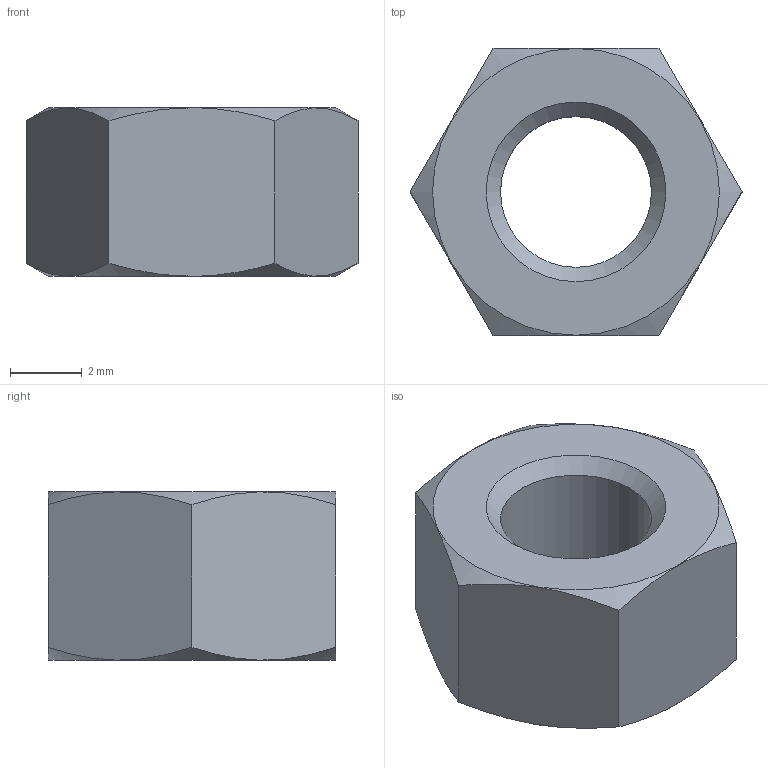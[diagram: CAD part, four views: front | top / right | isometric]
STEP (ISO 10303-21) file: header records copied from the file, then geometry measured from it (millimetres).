
FILE_DESCRIPTION( ( 'Unknown' ), '1' );
FILE_NAME( 'E:/-=Projekty=-/Projekty PKM/Solid Edge Standard Parts/nakrętki 4032/M5_PN-EN-ISO 4032_2004.stp', 'Unknown', ( 'Unknown' ), ( 'Unknown' ), 'PSStep 14.0', 'Unknown', ' ' );
FILE_SCHEMA( ( 'AUTOMOTIVE_DESIGN { 1 0 10303 214 1 1 1 1 }' ) );
Length unit declared in the file: millimetre
Products named in the file (1): 1
Bounding box: 9.24 x 8 x 4.7 mm (x, y, z)
Volume: 192 mm3; surface area: 264.2 mm2
Topology: 1 solids, 1 shells, 13 faces, 29 edges, 18 vertices
Faces by surface type: plane 8, cone 4, cylinder 1
Full cylindrical faces by diameter (mm): 4.2 x1
Entity records: 524 total; most frequent: CARTESIAN_POINT 148, ORIENTED_EDGE 48, DIRECTION 46, EDGE_CURVE 24, AXIS2_PLACEMENT_3D 20, EDGE_LOOP 20, VERTEX_POINT 18, FACE_OUTER_BOUND 14
